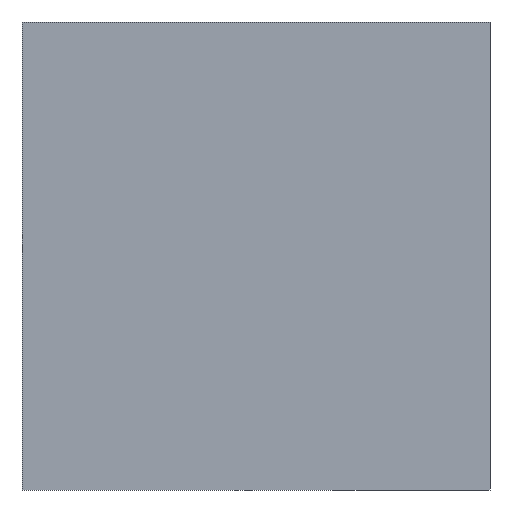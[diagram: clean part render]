
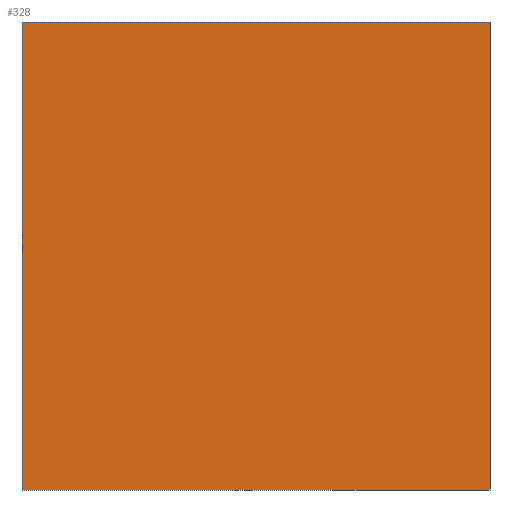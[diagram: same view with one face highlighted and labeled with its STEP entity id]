
A CAD part, front view. The second image highlights one B-rep face of the part: STEP entity #328.
In plain terms, the highlighted planar face has unit normal (0, -1, 0).
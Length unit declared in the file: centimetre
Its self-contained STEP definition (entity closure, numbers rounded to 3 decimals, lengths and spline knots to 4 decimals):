
#1 = VECTOR ( 'NONE', #487, 100. ) ;
#66 = ORIENTED_EDGE ( 'NONE', *, *, #527, .T. ) ;
#76 = DIRECTION ( 'NONE',  ( 0., 0., 1. ) ) ;
#81 = CARTESIAN_POINT ( 'NONE',  ( 1000., 0., 1000. ) ) ;
#128 = LINE ( 'NONE', #461, #611 ) ;
#186 = DIRECTION ( 'NONE',  ( 0., 0., -1. ) ) ;
#246 = CARTESIAN_POINT ( 'NONE',  ( 0., 0., 0. ) ) ;
#263 = EDGE_LOOP ( 'NONE', ( #66, #364, #702, #1029 ) ) ;
#297 = VERTEX_POINT ( 'NONE', #479 ) ;
#328 = ADVANCED_FACE ( 'NONE', ( #969 ), #402, .F. ) ;
#345 = CARTESIAN_POINT ( 'NONE',  ( 0., 0., 1000. ) ) ;
#364 = ORIENTED_EDGE ( 'NONE', *, *, #1010, .F. ) ;
#402 = PLANE ( 'NONE',  #819 ) ;
#434 = VERTEX_POINT ( 'NONE', #81 ) ;
#453 = VECTOR ( 'NONE', #670, 100. ) ;
#461 = CARTESIAN_POINT ( 'NONE',  ( 0., 0., 1000. ) ) ;
#475 = VECTOR ( 'NONE', #186, 100. ) ;
#479 = CARTESIAN_POINT ( 'NONE',  ( 1000., 0., 0. ) ) ;
#487 = DIRECTION ( 'NONE',  ( 1., 0., 0. ) ) ;
#514 = LINE ( 'NONE', #836, #475 ) ;
#527 = EDGE_CURVE ( 'NONE', #566, #297, #648, .T. ) ;
#556 = CARTESIAN_POINT ( 'NONE',  ( 0., 0., 0. ) ) ;
#566 = VERTEX_POINT ( 'NONE', #556 ) ;
#575 = DIRECTION ( 'NONE',  ( 0., 1., 0. ) ) ;
#586 = CARTESIAN_POINT ( 'NONE',  ( 0., 0., 1000. ) ) ;
#611 = VECTOR ( 'NONE', #877, 100. ) ;
#648 = LINE ( 'NONE', #246, #1 ) ;
#654 = EDGE_CURVE ( 'NONE', #911, #434, #128, .T. ) ;
#670 = DIRECTION ( 'NONE',  ( 0., 0., -1. ) ) ;
#702 = ORIENTED_EDGE ( 'NONE', *, *, #654, .F. ) ;
#767 = LINE ( 'NONE', #586, #453 ) ;
#810 = CARTESIAN_POINT ( 'NONE',  ( 0., 0., 1000. ) ) ;
#819 = AXIS2_PLACEMENT_3D ( 'NONE', #810, #575, #76 ) ;
#836 = CARTESIAN_POINT ( 'NONE',  ( 1000., 0., 1000. ) ) ;
#877 = DIRECTION ( 'NONE',  ( 1., 0., 0. ) ) ;
#911 = VERTEX_POINT ( 'NONE', #345 ) ;
#969 = FACE_OUTER_BOUND ( 'NONE', #263, .T. ) ;
#1010 = EDGE_CURVE ( 'NONE', #434, #297, #514, .T. ) ;
#1013 = EDGE_CURVE ( 'NONE', #911, #566, #767, .T. ) ;
#1029 = ORIENTED_EDGE ( 'NONE', *, *, #1013, .T. ) ;
